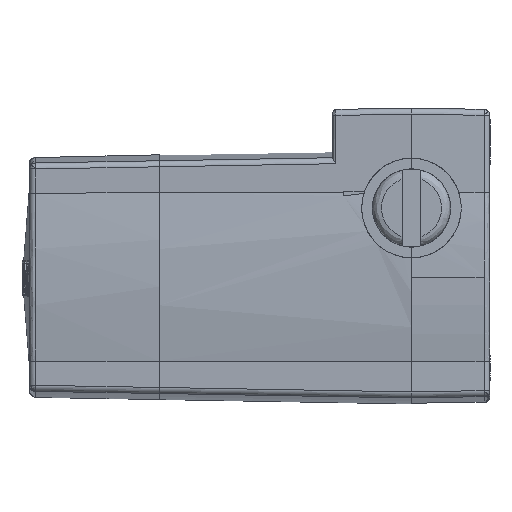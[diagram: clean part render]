
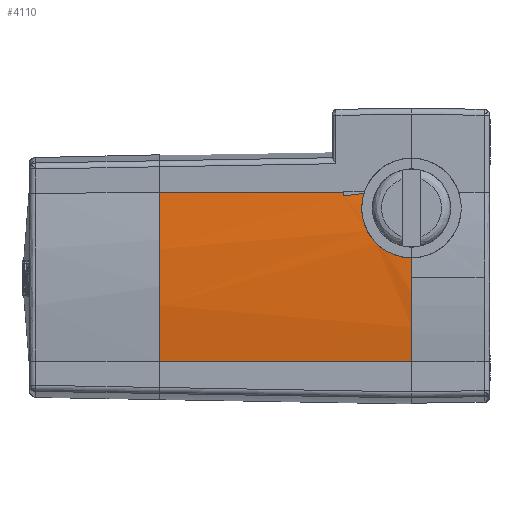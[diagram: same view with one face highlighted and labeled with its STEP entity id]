
A CAD part, left-side view. The second image highlights one B-rep face of the part: STEP entity #4110.
In plain terms, the highlighted conical face has half-angle 1 degrees and reference radius 197 mm.
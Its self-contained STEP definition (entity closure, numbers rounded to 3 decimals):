
#4105 = EDGE_LOOP ( 'NONE', ( #4423, #4119, #4106, #4342, #4111, #4420, #4338 ) ) ;
#4106 = ORIENTED_EDGE ( 'NONE', *, *, #4343, .T. ) ;
#4110 = ADVANCED_FACE ( 'NONE', ( #11073 ), #11111, .T. ) ;
#4111 = ORIENTED_EDGE ( 'NONE', *, *, #4341, .T. ) ;
#4115 = VERTEX_POINT ( 'NONE', #11106 ) ;
#4118 = VERTEX_POINT ( 'NONE', #11104 ) ;
#4119 = ORIENTED_EDGE ( 'NONE', *, *, #4674, .T. ) ;
#4120 = EDGE_CURVE ( 'NONE', #4422, #4115, #11162, .T. ) ;
#4121 = VERTEX_POINT ( 'NONE', #11116 ) ;
#4235 = VERTEX_POINT ( 'NONE', #11400 ) ;
#4338 = ORIENTED_EDGE ( 'NONE', *, *, #4120, .T. ) ;
#4339 = EDGE_CURVE ( 'NONE', #4121, #4424, #11771, .T. ) ;
#4340 = EDGE_CURVE ( 'NONE', #4677, #4422, #11768, .T. ) ;
#4341 = EDGE_CURVE ( 'NONE', #4424, #4677, #11763, .T. ) ;
#4342 = ORIENTED_EDGE ( 'NONE', *, *, #4339, .T. ) ;
#4343 = EDGE_CURVE ( 'NONE', #4118, #4121, #11762, .T. ) ;
#4420 = ORIENTED_EDGE ( 'NONE', *, *, #4340, .T. ) ;
#4422 = VERTEX_POINT ( 'NONE', #11877 ) ;
#4423 = ORIENTED_EDGE ( 'NONE', *, *, #4655, .T. ) ;
#4424 = VERTEX_POINT ( 'NONE', #11876 ) ;
#4655 = EDGE_CURVE ( 'NONE', #4115, #4235, #11772, .T. ) ;
#4674 = EDGE_CURVE ( 'NONE', #4235, #4118, #12805, .T. ) ;
#4677 = VERTEX_POINT ( 'NONE', #12833 ) ;
#11072 = AXIS2_PLACEMENT_3D ( 'NONE', #11080, #11117, #11108 ) ;
#11073 = FACE_OUTER_BOUND ( 'NONE', #4105, .T. ) ;
#11080 = CARTESIAN_POINT ( 'NONE',  ( 155., -23.5, 0. ) ) ;
#11104 = CARTESIAN_POINT ( 'NONE',  ( -39.607, -1., 27.972 ) ) ;
#11106 = CARTESIAN_POINT ( 'NONE',  ( -39.762, -7.719, 27.718 ) ) ;
#11108 = DIRECTION ( 'NONE',  ( 1., 0., 0. ) ) ;
#11111 = CONICAL_SURFACE ( 'NONE', #11072, 197., 0.017 ) ;
#11116 = CARTESIAN_POINT ( 'NONE',  ( -38.543, 60., 27.896 ) ) ;
#11117 = DIRECTION ( 'NONE',  ( 0., -1., 0. ) ) ;
#11130 = CARTESIAN_POINT ( 'NONE',  ( -39.762, -7.719, 27.718 ) ) ;
#11131 = CARTESIAN_POINT ( 'NONE',  ( -39.846, -7.531, 27.103 ) ) ;
#11132 = CARTESIAN_POINT ( 'NONE',  ( -39.929, -7.38, 26.479 ) ) ;
#11133 = CARTESIAN_POINT ( 'NONE',  ( -40.093, -7.151, 25.216 ) ) ;
#11134 = CARTESIAN_POINT ( 'NONE',  ( -40.173, -7.073, 24.574 ) ) ;
#11135 = CARTESIAN_POINT ( 'NONE',  ( -40.406, -6.952, 22.657 ) ) ;
#11136 = CARTESIAN_POINT ( 'NONE',  ( -40.55, -7.02, 21.386 ) ) ;
#11137 = CARTESIAN_POINT ( 'NONE',  ( -40.751, -7.343, 19.49 ) ) ;
#11138 = CARTESIAN_POINT ( 'NONE',  ( -40.816, -7.49, 18.858 ) ) ;
#11139 = CARTESIAN_POINT ( 'NONE',  ( -40.936, -7.852, 17.628 ) ) ;
#11140 = CARTESIAN_POINT ( 'NONE',  ( -40.993, -8.068, 17.027 ) ) ;
#11141 = CARTESIAN_POINT ( 'NONE',  ( -41.101, -8.567, 15.852 ) ) ;
#11142 = CARTESIAN_POINT ( 'NONE',  ( -41.151, -8.851, 15.279 ) ) ;
#11143 = CARTESIAN_POINT ( 'NONE',  ( -41.222, -9.33, 14.44 ) ) ;
#11144 = CARTESIAN_POINT ( 'NONE',  ( -41.245, -9.499, 14.163 ) ) ;
#11145 = CARTESIAN_POINT ( 'NONE',  ( -41.29, -9.852, 13.622 ) ) ;
#11146 = CARTESIAN_POINT ( 'NONE',  ( -41.311, -10.035, 13.358 ) ) ;
#11147 = CARTESIAN_POINT ( 'NONE',  ( -41.414, -10.988, 12.067 ) ) ;
#11148 = CARTESIAN_POINT ( 'NONE',  ( -41.484, -11.862, 11.132 ) ) ;
#11149 = CARTESIAN_POINT ( 'NONE',  ( -41.56, -13.095, 10.09 ) ) ;
#11150 = CARTESIAN_POINT ( 'NONE',  ( -41.574, -13.35, 9.887 ) ) ;
#11151 = CARTESIAN_POINT ( 'NONE',  ( -41.603, -13.867, 9.5 ) ) ;
#11152 = CARTESIAN_POINT ( 'NONE',  ( -41.616, -14.13, 9.315 ) ) ;
#11153 = CARTESIAN_POINT ( 'NONE',  ( -41.655, -14.933, 8.784 ) ) ;
#11154 = CARTESIAN_POINT ( 'NONE',  ( -41.678, -15.486, 8.463 ) ) ;
#11155 = CARTESIAN_POINT ( 'NONE',  ( -41.722, -16.629, 7.885 ) ) ;
#11156 = CARTESIAN_POINT ( 'NONE',  ( -41.743, -17.219, 7.628 ) ) ;
#11157 = CARTESIAN_POINT ( 'NONE',  ( -41.781, -18.436, 7.183 ) ) ;
#11158 = CARTESIAN_POINT ( 'NONE',  ( -41.798, -19.056, 6.997 ) ) ;
#11159 = CARTESIAN_POINT ( 'NONE',  ( -41.846, -20.928, 6.551 ) ) ;
#11160 = CARTESIAN_POINT ( 'NONE',  ( -41.873, -22.201, 6.4 ) ) ;
#11161 = CARTESIAN_POINT ( 'NONE',  ( -41.896, -23.5, 6.4 ) ) ;
#11162 = B_SPLINE_CURVE_WITH_KNOTS ( 'NONE', 3,
 ( #11161, #11160, #11159, #11158, #11157, #11156, #11155, #11154, #11153, #11152, #11151, #11150, #11149, #11148, #11147, #11146, #11145, #11144, #11143, #11142, #11141, #11140, #11139, #11138, #11137, #11136, #11135, #11134, #11133, #11132, #11131, #11130 ),
 .UNSPECIFIED., .F., .F.,
 ( 4, 2, 2, 2, 2, 2, 2, 2, 2, 2, 2, 2, 2, 2, 2, 4 ),
 ( 0., 0.004, 0.006, 0.008, 0.01, 0.011, 0.012, 0.015, 0.016, 0.017, 0.019, 0.021, 0.023, 0.027, 0.029, 0.031 ),
 .UNSPECIFIED. ) ;
#11400 = CARTESIAN_POINT ( 'NONE',  ( -39.762, -1., 26.873 ) ) ;
#11476 = CARTESIAN_POINT ( 'NONE',  ( -39.762, -1., 26.873 ) ) ;
#11477 = CARTESIAN_POINT ( 'NONE',  ( -39.762, -3.206, 27.155 ) ) ;
#11729 = DIRECTION ( 'NONE',  ( 0., -1., 0. ) ) ;
#11732 = CARTESIAN_POINT ( 'NONE',  ( 155., 60., 0. ) ) ;
#11751 = CARTESIAN_POINT ( 'NONE',  ( -38.543, 60., 27.896 ) ) ;
#11752 = CARTESIAN_POINT ( 'NONE',  ( -38.897, 39.667, 27.921 ) ) ;
#11753 = CARTESIAN_POINT ( 'NONE',  ( -39.252, 19.333, 27.947 ) ) ;
#11754 = CARTESIAN_POINT ( 'NONE',  ( -39.607, -1., 27.972 ) ) ;
#11756 = CARTESIAN_POINT ( 'NONE',  ( -39.762, -5.445, 27.437 ) ) ;
#11757 = CARTESIAN_POINT ( 'NONE',  ( -39.762, -7.719, 27.718 ) ) ;
#11758 = CARTESIAN_POINT ( 'NONE',  ( -40., -23.5, -28. ) ) ;
#11759 = CARTESIAN_POINT ( 'NONE',  ( -39.514, 4.333, -27.965 ) ) ;
#11760 = CARTESIAN_POINT ( 'NONE',  ( -39.028, 32.167, -27.931 ) ) ;
#11761 = CARTESIAN_POINT ( 'NONE',  ( -38.543, 60., -27.896 ) ) ;
#11762 = B_SPLINE_CURVE_WITH_KNOTS ( 'NONE', 3,
 ( #11754, #11753, #11752, #11751 ),
 .UNSPECIFIED., .F., .F.,
 ( 4, 4 ),
 ( 0., 0.061 ),
 .UNSPECIFIED. ) ;
#11763 = B_SPLINE_CURVE_WITH_KNOTS ( 'NONE', 3,
 ( #11761, #11760, #11759, #11758 ),
 .UNSPECIFIED., .F., .F.,
 ( 4, 4 ),
 ( 0., 0.084 ),
 .UNSPECIFIED. ) ;
#11764 = DIRECTION ( 'NONE',  ( 1., 0., 0. ) ) ;
#11765 = DIRECTION ( 'NONE',  ( 0., 1., 0. ) ) ;
#11766 = CARTESIAN_POINT ( 'NONE',  ( 155., -23.5, 0. ) ) ;
#11767 = AXIS2_PLACEMENT_3D ( 'NONE', #11766, #11765, #11764 ) ;
#11768 = CIRCLE ( 'NONE', #11767, 197. ) ;
#11769 = DIRECTION ( 'NONE',  ( 1., 0., 0. ) ) ;
#11770 = AXIS2_PLACEMENT_3D ( 'NONE', #11732, #11729, #11769 ) ;
#11771 = CIRCLE ( 'NONE', #11770, 195.543 ) ;
#11772 = B_SPLINE_CURVE_WITH_KNOTS ( 'NONE', 3,
 ( #11757, #11756, #11477, #11476 ),
 .UNSPECIFIED., .F., .F.,
 ( 4, 4 ),
 ( 0., 1. ),
 .UNSPECIFIED. ) ;
#11876 = CARTESIAN_POINT ( 'NONE',  ( -38.543, 60., -27.896 ) ) ;
#11877 = CARTESIAN_POINT ( 'NONE',  ( -41.896, -23.5, 6.4 ) ) ;
#12805 = CIRCLE ( 'NONE', #12828, 196.607 ) ;
#12827 = DIRECTION ( 'NONE',  ( 1., 0., 0. ) ) ;
#12828 = AXIS2_PLACEMENT_3D ( 'NONE', #12831, #12832, #12827 ) ;
#12831 = CARTESIAN_POINT ( 'NONE',  ( 155., -1., 0. ) ) ;
#12832 = DIRECTION ( 'NONE',  ( 0., 1., 0. ) ) ;
#12833 = CARTESIAN_POINT ( 'NONE',  ( -40., -23.5, -28. ) ) ;
